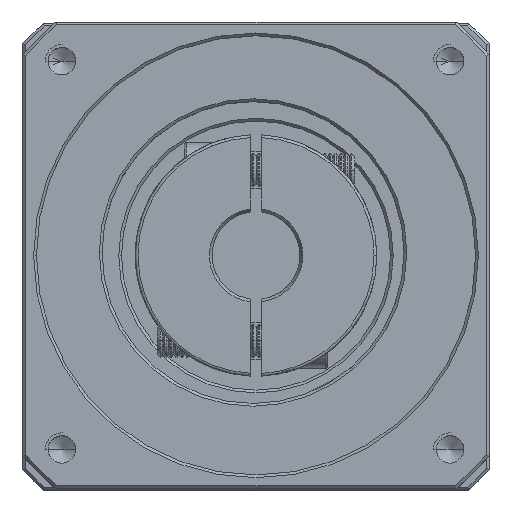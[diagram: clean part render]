
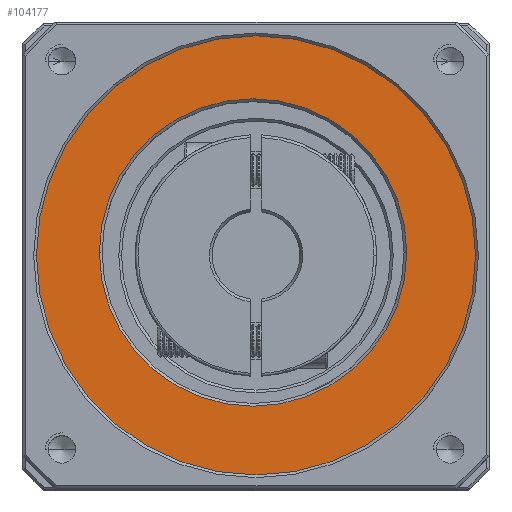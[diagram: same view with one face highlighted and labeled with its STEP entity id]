
A CAD part, top view. The second image highlights one B-rep face of the part: STEP entity #104177.
In plain terms, the highlighted planar face has unit normal (0, 0, 1).
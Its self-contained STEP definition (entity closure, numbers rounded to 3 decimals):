
#1601 = VERTEX_POINT ( 'NONE', #114803 ) ;
#2580 = ORIENTED_EDGE ( 'NONE', *, *, #94307, .T. ) ;
#4428 = AXIS2_PLACEMENT_3D ( 'NONE', #122724, #44901, #73929 ) ;
#6291 = EDGE_CURVE ( 'NONE', #48487, #29579, #15899, .T. ) ;
#15899 = CIRCLE ( 'NONE', #113756, 28. ) ;
#17801 = DIRECTION ( 'NONE',  ( 0., 0., 1. ) ) ;
#18558 = CIRCLE ( 'NONE', #63112, 40. ) ;
#19937 = CARTESIAN_POINT ( 'NONE',  ( -53.692, 42.906, 120.185 ) ) ;
#27071 = DIRECTION ( 'NONE',  ( 0., 0., -1. ) ) ;
#29579 = VERTEX_POINT ( 'NONE', #19937 ) ;
#31696 = ORIENTED_EDGE ( 'NONE', *, *, #6291, .T. ) ;
#35209 = CARTESIAN_POINT ( 'NONE',  ( -81.692, 42.906, 120.185 ) ) ;
#37758 = ORIENTED_EDGE ( 'NONE', *, *, #47904, .T. ) ;
#37966 = CARTESIAN_POINT ( 'NONE',  ( -81.15, 42.371, 120.185 ) ) ;
#38198 = CARTESIAN_POINT ( 'NONE',  ( -81.692, 42.906, 120.185 ) ) ;
#40158 = CARTESIAN_POINT ( 'NONE',  ( -81.15, 42.371, 120.185 ) ) ;
#40679 = AXIS2_PLACEMENT_3D ( 'NONE', #37966, #17801, #126083 ) ;
#42650 = ORIENTED_EDGE ( 'NONE', *, *, #44557, .T. ) ;
#43570 = CARTESIAN_POINT ( 'NONE',  ( -41.15, 42.371, 120.185 ) ) ;
#44557 = EDGE_CURVE ( 'NONE', #68548, #1601, #18558, .T. ) ;
#44615 = DIRECTION ( 'NONE',  ( 0., 0., -1. ) ) ;
#44901 = DIRECTION ( 'NONE',  ( 0., 0., 1. ) ) ;
#47904 = EDGE_CURVE ( 'NONE', #1601, #68548, #53039, .T. ) ;
#48487 = VERTEX_POINT ( 'NONE', #115206 ) ;
#53039 = CIRCLE ( 'NONE', #4428, 40. ) ;
#53523 = CIRCLE ( 'NONE', #87468, 28. ) ;
#63112 = AXIS2_PLACEMENT_3D ( 'NONE', #40158, #120029, #70860 ) ;
#68548 = VERTEX_POINT ( 'NONE', #43570 ) ;
#70860 = DIRECTION ( 'NONE',  ( 1., 0., 0. ) ) ;
#73929 = DIRECTION ( 'NONE',  ( 1., 0., 0. ) ) ;
#85106 = EDGE_LOOP ( 'NONE', ( #42650, #37758 ) ) ;
#87468 = AXIS2_PLACEMENT_3D ( 'NONE', #38198, #27071, #125012 ) ;
#94307 = EDGE_CURVE ( 'NONE', #29579, #48487, #53523, .T. ) ;
#102891 = FACE_OUTER_BOUND ( 'NONE', #85106, .T. ) ;
#102992 = EDGE_LOOP ( 'NONE', ( #2580, #31696 ) ) ;
#103478 = DIRECTION ( 'NONE',  ( 1., 0., 0. ) ) ;
#104177 = ADVANCED_FACE ( 'NONE', ( #102891, #112141 ), #105466, .T. ) ;
#105466 = PLANE ( 'NONE',  #40679 ) ;
#112141 = FACE_BOUND ( 'NONE', #102992, .T. ) ;
#113756 = AXIS2_PLACEMENT_3D ( 'NONE', #35209, #44615, #103478 ) ;
#114803 = CARTESIAN_POINT ( 'NONE',  ( -121.15, 42.371, 120.185 ) ) ;
#115206 = CARTESIAN_POINT ( 'NONE',  ( -109.692, 42.906, 120.185 ) ) ;
#120029 = DIRECTION ( 'NONE',  ( 0., 0., 1. ) ) ;
#122724 = CARTESIAN_POINT ( 'NONE',  ( -81.15, 42.371, 120.185 ) ) ;
#125012 = DIRECTION ( 'NONE',  ( 1., 0., 0. ) ) ;
#126083 = DIRECTION ( 'NONE',  ( 1., 0., 0. ) ) ;
